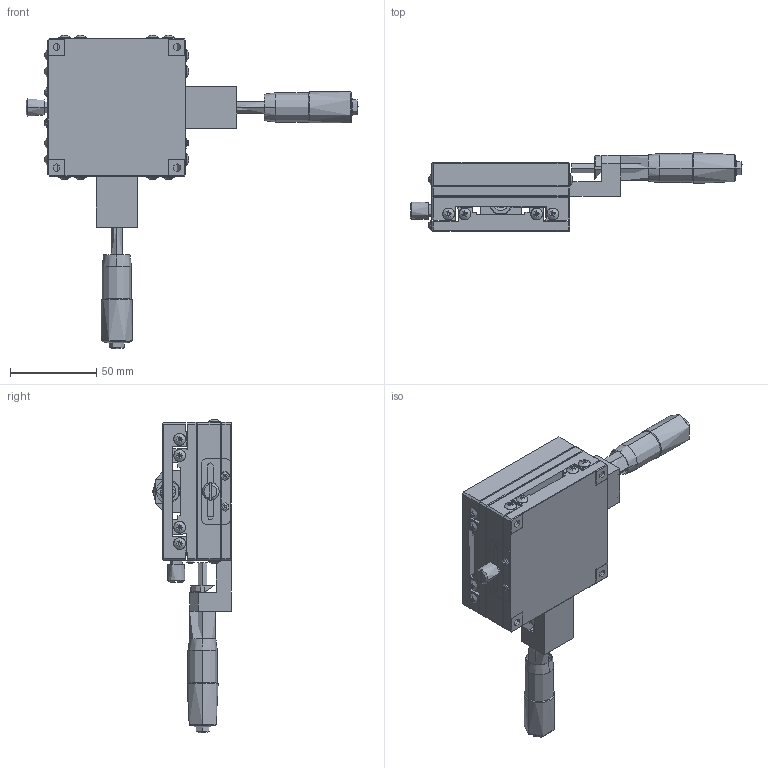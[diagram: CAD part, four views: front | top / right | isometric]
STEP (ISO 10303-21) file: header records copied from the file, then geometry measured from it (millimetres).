
FILE_DESCRIPTION (( 'STEP AP214' ), '1' );
FILE_NAME ('PT-XY80C.STEP', '2022-09-04T06:38:26', ( '' ), ( '' ), 'SwSTEP 2.0', 'SolidWorks 2017', '' );
FILE_SCHEMA (( 'AUTOMOTIVE_DESIGN' ));
Length unit declared in the file: millimetre
Products named in the file (1): PT-XY80C
Bounding box: 192.42 x 45.7 x 181.62 mm (x, y, z)
Topology: 0 solids, 30 shells, 788 faces, 2057 edges, 1273 vertices
Faces by surface type: plane 451, cylinder 150, cone 124, bspline 63
Entity records: 29350 total; most frequent: CARTESIAN_POINT 11773, ORIENTED_EDGE 3745, DIRECTION 3167, EDGE_CURVE 2028, VERTEX_POINT 1273, AXIS2_PLACEMENT_3D 1104, VECTOR 959, LINE 959
